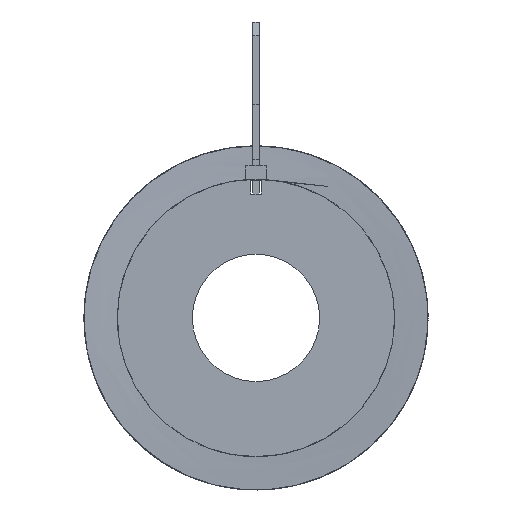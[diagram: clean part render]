
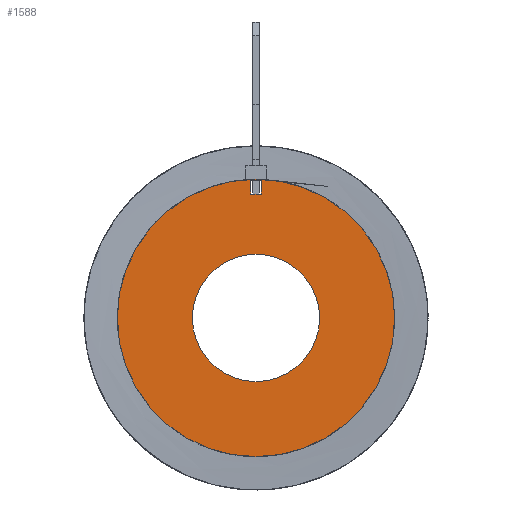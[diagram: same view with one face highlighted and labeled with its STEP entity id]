
A CAD part, front view. The second image highlights one B-rep face of the part: STEP entity #1588.
In plain terms, the highlighted planar face has unit normal (0, -1, 0).
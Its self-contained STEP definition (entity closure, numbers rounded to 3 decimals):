
#31=FACE_BOUND($,#307,.T.);
#32=FACE_BOUND($,#308,.T.);
#44=CIRCLE($,#1606,20.);
#49=CIRCLE($,#1613,20.15);
#70=CIRCLE($,#1700,9.25);
#144=PLANE($,#1699);
#215=FACE_OUTER_BOUND($,#306,.T.);
#306=EDGE_LOOP($,(#1422));
#307=EDGE_LOOP($,(#1423,#1424,#1425,#1426));
#308=EDGE_LOOP($,(#1427));
#477=LINE($,#8890,#648);
#480=LINE($,#8896,#651);
#484=LINE($,#8902,#655);
#648=VECTOR($,#2075,1.986);
#651=VECTOR($,#2080,1.5);
#655=VECTOR($,#2086,1.986);
#686=VERTEX_POINT($,#8543);
#687=VERTEX_POINT($,#8545);
#692=VERTEX_POINT($,#8559);
#795=VERTEX_POINT($,#8889);
#797=VERTEX_POINT($,#8895);
#799=VERTEX_POINT($,#8904);
#831=EDGE_CURVE($,#687,#686,#44,.T.);
#838=EDGE_CURVE($,#692,#692,#49,.T.);
#1002=EDGE_CURVE($,#795,#687,#477,.T.);
#1005=EDGE_CURVE($,#797,#795,#480,.T.);
#1009=EDGE_CURVE($,#686,#797,#484,.T.);
#1010=EDGE_CURVE($,#799,#799,#70,.T.);
#1422=ORIENTED_EDGE($,*,*,#838,.T.);
#1423=ORIENTED_EDGE($,*,*,#1009,.T.);
#1424=ORIENTED_EDGE($,*,*,#1005,.T.);
#1425=ORIENTED_EDGE($,*,*,#1002,.T.);
#1426=ORIENTED_EDGE($,*,*,#831,.T.);
#1427=ORIENTED_EDGE($,*,*,#1010,.T.);
#1588=ADVANCED_FACE($,(#215,#31,#32),#144,.F.);
#1606=AXIS2_PLACEMENT_3D($,#8546,#1748,#1749);
#1613=AXIS2_PLACEMENT_3D($,#8560,#1764,#1765);
#1699=AXIS2_PLACEMENT_3D($,#8903,#2087,#2088);
#1700=AXIS2_PLACEMENT_3D($,#8905,#2089,#2090);
#1748=DIRECTION('center_axis',(0.,1.,0.));
#1749=DIRECTION('ref_axis',(1.,0.,0.));
#1764=DIRECTION('center_axis',(0.,-1.,0.));
#1765=DIRECTION('ref_axis',(1.,0.,0.));
#2075=DIRECTION($,(0.,0.,1.));
#2080=DIRECTION($,(-1.,0.,0.));
#2086=DIRECTION($,(0.,0.,-1.));
#2087=DIRECTION('center_axis',(0.,1.,0.));
#2088=DIRECTION('ref_axis',(0.,0.,1.));
#2089=DIRECTION('center_axis',(0.,1.,0.));
#2090=DIRECTION('ref_axis',(1.,0.,0.));
#8543=CARTESIAN_POINT('',(0.75,-150.,19.986));
#8545=CARTESIAN_POINT('',(-0.75,-150.,19.986));
#8546=CARTESIAN_POINT('Origin',(0.,-150.,0.));
#8559=CARTESIAN_POINT('',(-20.15,-150.,0.));
#8560=CARTESIAN_POINT('Origin',(0.,-150.,0.));
#8889=CARTESIAN_POINT('',(-0.75,-150.,18.));
#8890=CARTESIAN_POINT($,(-0.75,-150.,10.35));
#8895=CARTESIAN_POINT('',(0.75,-150.,18.));
#8896=CARTESIAN_POINT($,(-0.375,-150.,18.));
#8902=CARTESIAN_POINT($,(0.75,-150.,9.));
#8903=CARTESIAN_POINT('Origin',(0.,-150.,0.));
#8904=CARTESIAN_POINT('',(-9.25,-150.,0.));
#8905=CARTESIAN_POINT('Origin',(0.,-150.,0.));
